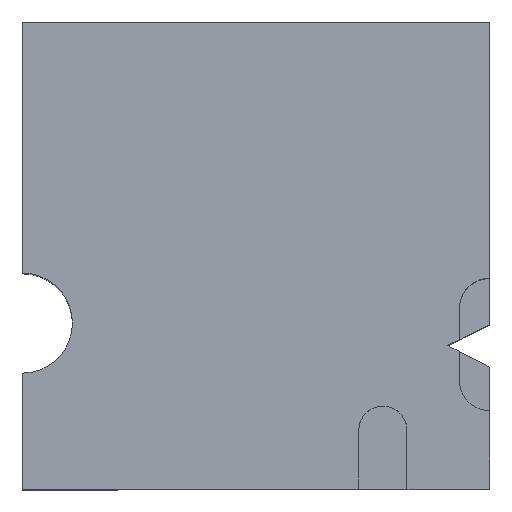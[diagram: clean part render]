
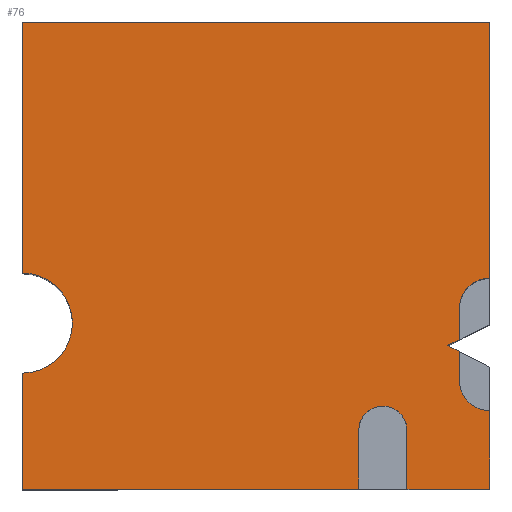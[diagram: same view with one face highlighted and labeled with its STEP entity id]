
A CAD part, top view. The second image highlights one B-rep face of the part: STEP entity #76.
In plain terms, the highlighted planar face has unit normal (0, 0, 1).
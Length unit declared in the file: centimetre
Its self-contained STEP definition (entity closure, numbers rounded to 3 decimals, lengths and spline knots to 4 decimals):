
#1 = CIRCLE ( 'NONE', #620, 64.8901 ) ;
#13 = CARTESIAN_POINT ( 'NONE',  ( 0., 1000., 1000. ) ) ;
#14 = CARTESIAN_POINT ( 'NONE',  ( 0., 1000., 1000. ) ) ;
#49 = EDGE_CURVE ( 'NONE', #208, #1075, #362, .T. ) ;
#51 = CARTESIAN_POINT ( 'NONE',  ( 1000., 262.4693, 1000. ) ) ;
#52 = DIRECTION ( 'NONE',  ( -1., 0., 0. ) ) ;
#61 = EDGE_CURVE ( 'NONE', #535, #707, #687, .T. ) ;
#76 = ADVANCED_FACE ( 'NONE', ( #97 ), #1012, .T. ) ;
#97 = FACE_OUTER_BOUND ( 'NONE', #793, .T. ) ;
#105 = CARTESIAN_POINT ( 'NONE',  ( 0., 355.5158, 1000. ) ) ;
#124 = VERTEX_POINT ( 'NONE', #844 ) ;
#125 = ORIENTED_EDGE ( 'NONE', *, *, #1042, .T. ) ;
#133 = DIRECTION ( 'NONE',  ( 0., 0., 1. ) ) ;
#146 = DIRECTION ( 'NONE',  ( 0.893, 0.45, 0. ) ) ;
#189 = LINE ( 'NONE', #512, #888 ) ;
#197 = EDGE_CURVE ( 'NONE', #296, #1044, #1013, .T. ) ;
#198 = ORIENTED_EDGE ( 'NONE', *, *, #1100, .F. ) ;
#208 = VERTEX_POINT ( 'NONE', #787 ) ;
#216 = CARTESIAN_POINT ( 'NONE',  ( 1000., 1000., 1000. ) ) ;
#220 = CARTESIAN_POINT ( 'NONE',  ( 719.9985, 0., 1000. ) ) ;
#225 = DIRECTION ( 'NONE',  ( 0., 1., 0. ) ) ;
#249 = AXIS2_PLACEMENT_3D ( 'NONE', #930, #425, #590 ) ;
#265 = DIRECTION ( 'NONE',  ( 0., -1., 0. ) ) ;
#273 = ORIENTED_EDGE ( 'NONE', *, *, #315, .T. ) ;
#280 = ORIENTED_EDGE ( 'NONE', *, *, #1095, .T. ) ;
#291 = AXIS2_PLACEMENT_3D ( 'NONE', #809, #1047, #476 ) ;
#296 = VERTEX_POINT ( 'NONE', #13 ) ;
#308 = VECTOR ( 'NONE', #371, 100. ) ;
#315 = EDGE_CURVE ( 'NONE', #1044, #488, #958, .T. ) ;
#316 = LINE ( 'NONE', #638, #1049 ) ;
#336 = CARTESIAN_POINT ( 'NONE',  ( 823.1885, 126.26, 1000. ) ) ;
#353 = VERTEX_POINT ( 'NONE', #386 ) ;
#357 = DIRECTION ( 'NONE',  ( 0., 0., -1. ) ) ;
#362 = CIRCLE ( 'NONE', #1090, 64.8901 ) ;
#371 = DIRECTION ( 'NONE',  ( -1., 0., 0. ) ) ;
#381 = EDGE_CURVE ( 'NONE', #539, #1086, #704, .T. ) ;
#383 = CARTESIAN_POINT ( 'NONE',  ( 823.1885, 0., 1000. ) ) ;
#384 = CARTESIAN_POINT ( 'NONE',  ( 1000., 386.9908, 1000. ) ) ;
#386 = CARTESIAN_POINT ( 'NONE',  ( 823.1885, 126.26, 1000. ) ) ;
#388 = VERTEX_POINT ( 'NONE', #220 ) ;
#392 = CARTESIAN_POINT ( 'NONE',  ( 910.1333, 307.6991, 1000. ) ) ;
#411 = VECTOR ( 'NONE', #430, 100. ) ;
#425 = DIRECTION ( 'NONE',  ( 0., 0., 1. ) ) ;
#430 = DIRECTION ( 'NONE',  ( 0., -1., 0. ) ) ;
#457 = VERTEX_POINT ( 'NONE', #383 ) ;
#462 = CARTESIAN_POINT ( 'NONE',  ( 1000., 167.967, 1000. ) ) ;
#466 = ORIENTED_EDGE ( 'NONE', *, *, #381, .T. ) ;
#471 = ORIENTED_EDGE ( 'NONE', *, *, #968, .T. ) ;
#474 = CARTESIAN_POINT ( 'NONE',  ( 935.11, 386.9908, 1000. ) ) ;
#476 = DIRECTION ( 'NONE',  ( -1., 0., 0. ) ) ;
#488 = VERTEX_POINT ( 'NONE', #645 ) ;
#512 = CARTESIAN_POINT ( 'NONE',  ( 0., 0., 1000. ) ) ;
#519 = LINE ( 'NONE', #14, #308 ) ;
#521 = DIRECTION ( 'NONE',  ( 0., -1., 0. ) ) ;
#525 = LINE ( 'NONE', #693, #942 ) ;
#535 = VERTEX_POINT ( 'NONE', #474 ) ;
#539 = VERTEX_POINT ( 'NONE', #905 ) ;
#544 = VERTEX_POINT ( 'NONE', #997 ) ;
#549 = DIRECTION ( 'NONE',  ( -0.893, 0.45, 0. ) ) ;
#555 = LINE ( 'NONE', #216, #711 ) ;
#586 = DIRECTION ( 'NONE',  ( 0., 1., 0. ) ) ;
#590 = DIRECTION ( 'NONE',  ( 1., 0., 0. ) ) ;
#607 = ORIENTED_EDGE ( 'NONE', *, *, #797, .F. ) ;
#608 = DIRECTION ( 'NONE',  ( -1., 0., 0. ) ) ;
#609 = CARTESIAN_POINT ( 'NONE',  ( 719.9985, 0., 1000. ) ) ;
#618 = CARTESIAN_POINT ( 'NONE',  ( 0., 1000., 1000. ) ) ;
#620 = AXIS2_PLACEMENT_3D ( 'NONE', #384, #966, #52 ) ;
#638 = CARTESIAN_POINT ( 'NONE',  ( 910.1333, 307.6991, 1000. ) ) ;
#640 = VECTOR ( 'NONE', #870, 100. ) ;
#645 = CARTESIAN_POINT ( 'NONE',  ( 0., 248.456, 1000. ) ) ;
#651 = CARTESIAN_POINT ( 'NONE',  ( 0., 0., 1000. ) ) ;
#665 = ORIENTED_EDGE ( 'NONE', *, *, #197, .T. ) ;
#666 = EDGE_CURVE ( 'NONE', #806, #388, #1079, .T. ) ;
#668 = CARTESIAN_POINT ( 'NONE',  ( 935.11, 320.2698, 1000. ) ) ;
#674 = VECTOR ( 'NONE', #521, 100. ) ;
#687 = LINE ( 'NONE', #850, #926 ) ;
#693 = CARTESIAN_POINT ( 'NONE',  ( 935.11, 232.857, 1000. ) ) ;
#696 = ORIENTED_EDGE ( 'NONE', *, *, #928, .T. ) ;
#701 = ORIENTED_EDGE ( 'NONE', *, *, #666, .T. ) ;
#704 = LINE ( 'NONE', #51, #833 ) ;
#707 = VERTEX_POINT ( 'NONE', #668 ) ;
#711 = VECTOR ( 'NONE', #225, 100. ) ;
#712 = CIRCLE ( 'NONE', #291, 51.595 ) ;
#741 = LINE ( 'NONE', #336, #959 ) ;
#742 = ORIENTED_EDGE ( 'NONE', *, *, #981, .F. ) ;
#759 = DIRECTION ( 'NONE',  ( 0., -1., 0. ) ) ;
#777 = LINE ( 'NONE', #609, #871 ) ;
#787 = CARTESIAN_POINT ( 'NONE',  ( 935.11, 232.857, 1000. ) ) ;
#793 = EDGE_LOOP ( 'NONE', ( #273, #1096, #701, #742, #198, #607, #696, #125, #929, #1064, #466, #280, #970, #951, #801, #471, #665 ) ) ;
#797 = EDGE_CURVE ( 'NONE', #457, #353, #741, .T. ) ;
#799 = VECTOR ( 'NONE', #991, 100. ) ;
#801 = ORIENTED_EDGE ( 'NONE', *, *, #866, .T. ) ;
#806 = VERTEX_POINT ( 'NONE', #1004 ) ;
#809 = CARTESIAN_POINT ( 'NONE',  ( 771.5935, 126.26, 1000. ) ) ;
#833 = VECTOR ( 'NONE', #549, 100. ) ;
#838 = VERTEX_POINT ( 'NONE', #1028 ) ;
#842 = EDGE_CURVE ( 'NONE', #539, #208, #525, .T. ) ;
#844 = CARTESIAN_POINT ( 'NONE',  ( 1000., 0., 1000. ) ) ;
#850 = CARTESIAN_POINT ( 'NONE',  ( 935.11, 232.857, 1000. ) ) ;
#855 = DIRECTION ( 'NONE',  ( 1., 0., 0. ) ) ;
#858 = VERTEX_POINT ( 'NONE', #1035 ) ;
#865 = CARTESIAN_POINT ( 'NONE',  ( 1000., 1000., 1000. ) ) ;
#866 = EDGE_CURVE ( 'NONE', #838, #858, #1043, .T. ) ;
#870 = DIRECTION ( 'NONE',  ( 0., 1., 0. ) ) ;
#871 = VECTOR ( 'NONE', #949, 100. ) ;
#888 = VECTOR ( 'NONE', #855, 100. ) ;
#892 = EDGE_CURVE ( 'NONE', #488, #806, #945, .T. ) ;
#894 = CARTESIAN_POINT ( 'NONE',  ( 0., 462.5756, 1000. ) ) ;
#904 = AXIS2_PLACEMENT_3D ( 'NONE', #105, #357, #608 ) ;
#905 = CARTESIAN_POINT ( 'NONE',  ( 935.11, 295.1283, 1000. ) ) ;
#926 = VECTOR ( 'NONE', #759, 100. ) ;
#928 = EDGE_CURVE ( 'NONE', #457, #124, #189, .T. ) ;
#929 = ORIENTED_EDGE ( 'NONE', *, *, #49, .F. ) ;
#930 = CARTESIAN_POINT ( 'NONE',  ( 0., 0., 1000. ) ) ;
#936 = DIRECTION ( 'NONE',  ( -1., 0., 0. ) ) ;
#942 = VECTOR ( 'NONE', #265, 100. ) ;
#945 = LINE ( 'NONE', #618, #674 ) ;
#948 = CARTESIAN_POINT ( 'NONE',  ( 0., 1000., 1000. ) ) ;
#949 = DIRECTION ( 'NONE',  ( 0., -1., 0. ) ) ;
#951 = ORIENTED_EDGE ( 'NONE', *, *, #1014, .F. ) ;
#958 = CIRCLE ( 'NONE', #904, 107.0598 ) ;
#959 = VECTOR ( 'NONE', #586, 100. ) ;
#966 = DIRECTION ( 'NONE',  ( 0., 0., 1. ) ) ;
#968 = EDGE_CURVE ( 'NONE', #858, #296, #519, .T. ) ;
#970 = ORIENTED_EDGE ( 'NONE', *, *, #61, .F. ) ;
#981 = EDGE_CURVE ( 'NONE', #544, #388, #777, .T. ) ;
#991 = DIRECTION ( 'NONE',  ( 1., 0., 0. ) ) ;
#997 = CARTESIAN_POINT ( 'NONE',  ( 719.9985, 126.26, 1000. ) ) ;
#1004 = CARTESIAN_POINT ( 'NONE',  ( 0., 0., 1000. ) ) ;
#1012 = PLANE ( 'NONE',  #249 ) ;
#1013 = LINE ( 'NONE', #948, #411 ) ;
#1014 = EDGE_CURVE ( 'NONE', #838, #535, #1, .T. ) ;
#1028 = CARTESIAN_POINT ( 'NONE',  ( 1000., 451.8809, 1000. ) ) ;
#1035 = CARTESIAN_POINT ( 'NONE',  ( 1000., 1000., 1000. ) ) ;
#1042 = EDGE_CURVE ( 'NONE', #124, #1075, #555, .T. ) ;
#1043 = LINE ( 'NONE', #865, #640 ) ;
#1044 = VERTEX_POINT ( 'NONE', #894 ) ;
#1047 = DIRECTION ( 'NONE',  ( 0., 0., 1. ) ) ;
#1049 = VECTOR ( 'NONE', #146, 100. ) ;
#1058 = CARTESIAN_POINT ( 'NONE',  ( 1000., 232.857, 1000. ) ) ;
#1064 = ORIENTED_EDGE ( 'NONE', *, *, #842, .F. ) ;
#1075 = VERTEX_POINT ( 'NONE', #462 ) ;
#1079 = LINE ( 'NONE', #651, #799 ) ;
#1086 = VERTEX_POINT ( 'NONE', #392 ) ;
#1090 = AXIS2_PLACEMENT_3D ( 'NONE', #1058, #133, #936 ) ;
#1095 = EDGE_CURVE ( 'NONE', #1086, #707, #316, .T. ) ;
#1096 = ORIENTED_EDGE ( 'NONE', *, *, #892, .T. ) ;
#1100 = EDGE_CURVE ( 'NONE', #353, #544, #712, .T. ) ;
